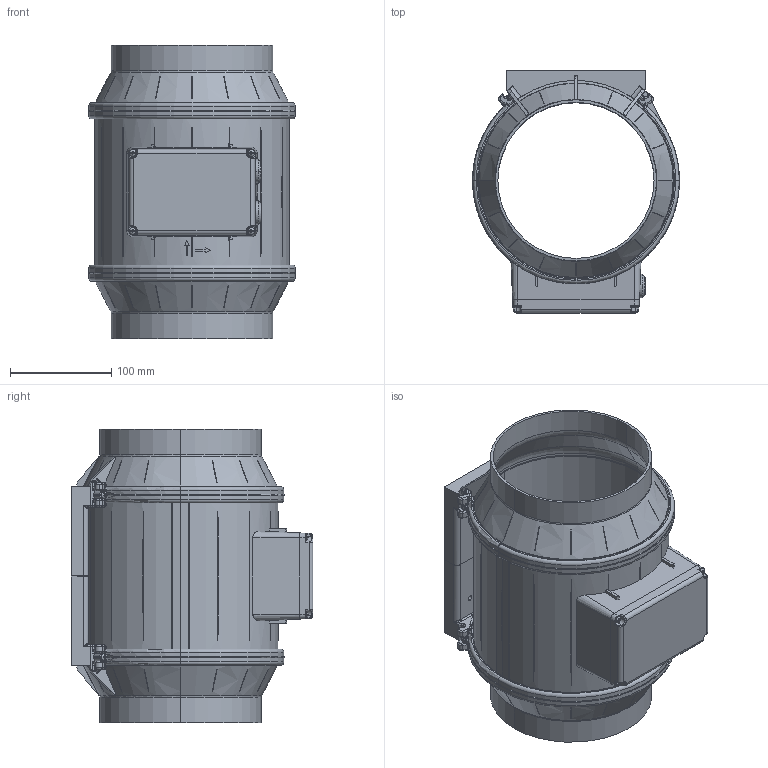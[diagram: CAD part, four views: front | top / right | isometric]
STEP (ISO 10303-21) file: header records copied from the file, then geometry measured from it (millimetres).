
FILE_DESCRIPTION (( 'STEP AP203' ), '1' );
FILE_NAME ('128586-02_EM160EC01.STEP', '2014-09-26T07:26:56', ( '' ), ( '' ), 'SwSTEP 2.0', 'SolidWorks 2012', '' );
FILE_SCHEMA (( 'CONFIG_CONTROL_DESIGN' ));
Length unit declared in the file: millimetre
Products named in the file (1): 128586-02_EM160EC01
Bounding box: 204 x 238.55 x 289 mm (x, y, z)
Surface area: 463206 mm2 (no closed solid volume)
Topology: 0 solids, 21 shells, 1291 faces, 4389 edges, 2947 vertices
Faces by surface type: cylinder 428, plane 350, torus 230, bspline 186, cone 80, sphere 17
Entity records: 68041 total; most frequent: CARTESIAN_POINT 33384, ORIENTED_EDGE 6994, DIRECTION 6808, EDGE_CURVE 4352, VERTEX_POINT 2939, AXIS2_PLACEMENT_3D 2597, LINE 1614, VECTOR 1614
